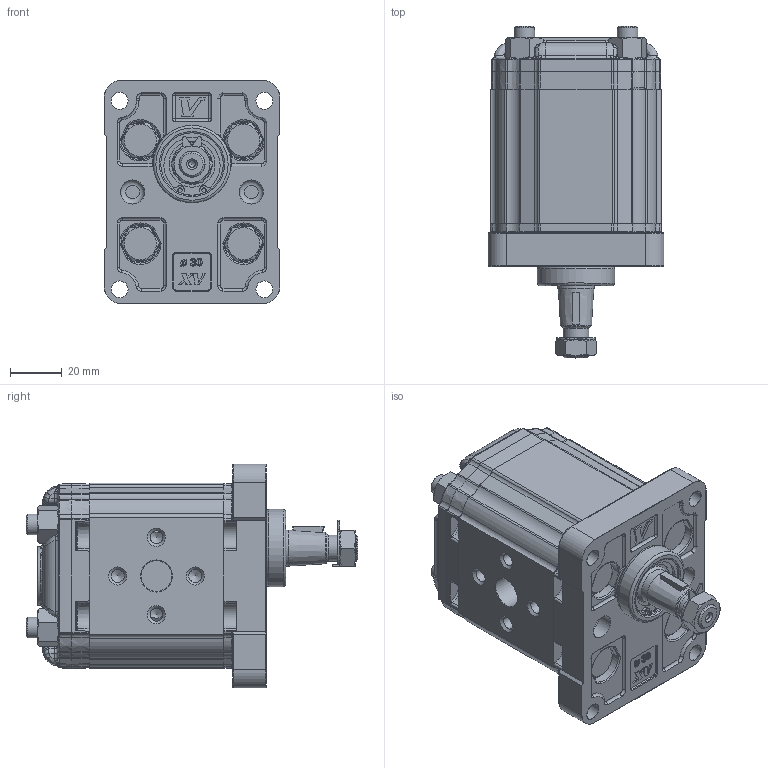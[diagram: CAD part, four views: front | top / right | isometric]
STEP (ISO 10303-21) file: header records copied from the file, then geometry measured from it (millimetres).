
FILE_DESCRIPTION(/* description */ ('Unknown'),/* implementation_level */ '2;1');
FILE_NAME(/* name */ 'X1R2507GIIE',/* time_stamp */ '2026-05-26T18:58:36+02:00',/* author */ ('Unknown'),/* organization */ ('Unknown'),/* preprocessor_version */ 'ST-DEVELOPER v16.7',/* originating_system */ 'Solid Edge',/* authorisation */ 'Unknown');
FILE_SCHEMA (('AUTOMOTIVE_DESIGN {1 0 10303 214 3 1 1}'));
Products named in the file (5): X1R2507GIIE; X1R07; 1G; X1IIH52; XR113-E
Assembly tree (4 placements, depth 2):
  X1R2507GIIE
    X1R07
    1G
    X1IIH52
    XR113-E
Bounding box: 68 x 128.49 x 86.7 mm (x, y, z)
Volume: 362103.9 mm3; surface area: 76651.5 mm2
Topology: 4 solids, 5 shells, 1676 faces, 4089 edges, 2458 vertices
Faces by surface type: cylinder 506, plane 403, bspline 314, torus 234, cone 191, sphere 28
Full cylindrical faces by diameter (mm): 1.678 x2, 2.5 x1, 3 x2, 5 x8, 6.5 x4, 8 x12, 8.5 x6, 9 x2, 9.3 x2, 10 x2, 10.25 x1, 10.5 x2, 11.445 x1, 12 x6, 13.955 x1, 14 x2, 14.923 x1, 17.115 x1, 17.833 x1, 20 x1, 22 x1, 24 x2, 24.2 x1, 25.5 x1, 30 x1
Entity records: 76910 total; most frequent: CARTESIAN_POINT 28358, ORIENTED_EDGE 7614, DIRECTION 7487, EDGE_CURVE 3807, AXIS2_PLACEMENT_3D 3129, VERTEX_POINT 2368, FACE_BOUND 1981, EDGE_LOOP 1971
